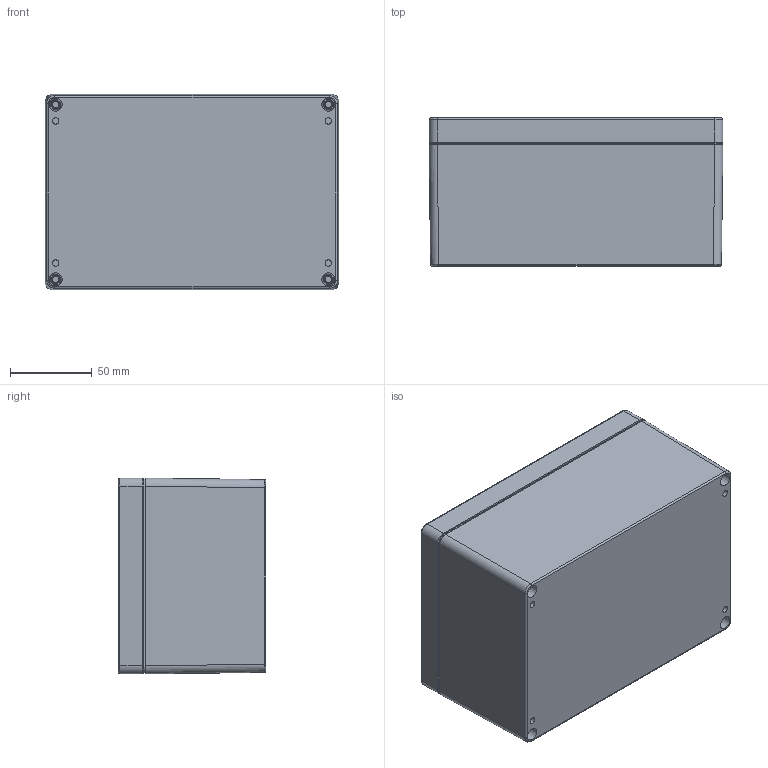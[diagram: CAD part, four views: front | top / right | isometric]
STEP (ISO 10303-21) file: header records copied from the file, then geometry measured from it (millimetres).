
FILE_DESCRIPTION(/* description */ (''),/* implementation_level */ '2;1');
FILE_NAME(/* name */ 'C:\Users\Mbeerman\Desktop\B\1554T\1554T.iam.stp',/* time_stamp */ '2016-01-06T07:41:48-05:00',/* author */ ('rboehler'),/* organization */ (''),/* preprocessor_version */ 'ST-DEVELOPER v16.1',/* originating_system */ 'Autodesk Inventor 2016',/* authorisation */ '');
FILE_SCHEMA (('AUTOMOTIVE_DESIGN { 1 0 10303 214 3 1 1 }'));
Products named in the file (7): 1554T Box; 1554H-T Lid; 1554H-T GASKET; SC576 (screw M4-0.7X 20mm PN); IN-M4 (insert M4-0.7X5.75mm SS); IN100 (insert M3-0.5X5.75mm BRASS); 1554T
Assembly tree (15 placements, depth 2):
  1554T
    1554T Box
    1554H-T Lid
    1554H-T GASKET
    SC576 (screw M4-0.7X 20mm PN)  x4
    IN-M4 (insert M4-0.7X5.75mm SS)  x4
    IN100 (insert M3-0.5X5.75mm BRASS)  x4
Bounding box: 180 x 90.5 x 120 mm (x, y, z)
Volume: 310414.2 mm3; surface area: 221329.4 mm2
Topology: 15 solids, 15 shells, 1364 faces, 3560 edges, 2304 vertices
Faces by surface type: plane 382, cylinder 348, bspline 332, cone 210, torus 76, sphere 16
Full cylindrical faces by diameter (mm): 2 x8, 2.464 x4, 3.251 x4, 3.43 x4, 3.5 x4, 3.81 x12, 3.88 x4, 3.912 x4, 5.334 x4, 5.537 x8, 6.35 x8
Entity records: 26219 total; most frequent: CARTESIAN_POINT 6938, ORIENTED_EDGE 3962, DIRECTION 3936, EDGE_CURVE 1981, AXIS2_PLACEMENT_3D 1556, VERTEX_POINT 1293, EDGE_LOOP 972, LINE 824
